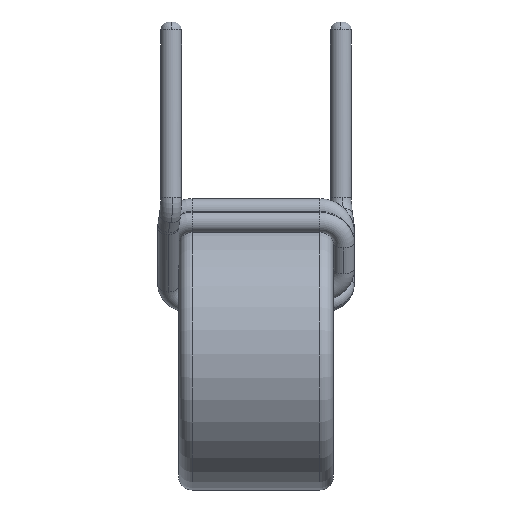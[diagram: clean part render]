
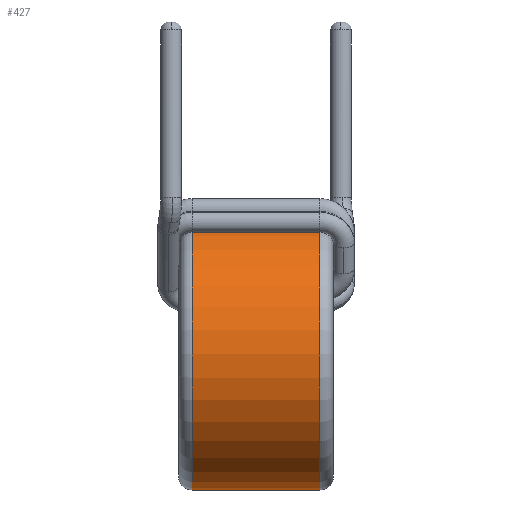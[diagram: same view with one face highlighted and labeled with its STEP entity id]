
A CAD part, left-side view. The second image highlights one B-rep face of the part: STEP entity #427.
In plain terms, the highlighted cylindrical face has radius 5.125 mm (diameter 10.25 mm), a partial arc.
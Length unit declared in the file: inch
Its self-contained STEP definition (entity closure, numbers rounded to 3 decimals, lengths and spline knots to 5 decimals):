
#46 = DIRECTION ( 'NONE',  ( 0., 0., 1. ) ) ;
#125 = AXIS2_PLACEMENT_3D ( 'NONE', #1831, #1984, #383 ) ;
#169 = VECTOR ( 'NONE', #2816, 39.37008 ) ;
#290 = CARTESIAN_POINT ( 'NONE',  ( 0., 0.11457, 0.20177 ) ) ;
#383 = DIRECTION ( 'NONE',  ( 0., 0., -1. ) ) ;
#427 = ADVANCED_FACE ( 'NONE', ( #1980 ), #1379, .T. ) ;
#483 = EDGE_LOOP ( 'NONE', ( #863, #2011, #1988, #4298 ) ) ;
#515 = AXIS2_PLACEMENT_3D ( 'NONE', #4156, #3315, #3922 ) ;
#851 = CARTESIAN_POINT ( 'NONE',  ( 0., 0.09488, -0.20177 ) ) ;
#863 = ORIENTED_EDGE ( 'NONE', *, *, #1818, .F. ) ;
#990 = EDGE_CURVE ( 'NONE', #3137, #2697, #2591, .T. ) ;
#1010 = CARTESIAN_POINT ( 'NONE',  ( 0., 0.09488, 0.20177 ) ) ;
#1136 = LINE ( 'NONE', #2978, #1502 ) ;
#1366 = CARTESIAN_POINT ( 'NONE',  ( 0., -0.09488, -0.20177 ) ) ;
#1379 = CYLINDRICAL_SURFACE ( 'NONE', #125, 0.20177 ) ;
#1502 = VECTOR ( 'NONE', #2510, 39.37008 ) ;
#1524 = LINE ( 'NONE', #290, #169 ) ;
#1811 = CARTESIAN_POINT ( 'NONE',  ( 0., -0.09488, 0. ) ) ;
#1818 = EDGE_CURVE ( 'NONE', #4462, #2697, #1524, .T. ) ;
#1831 = CARTESIAN_POINT ( 'NONE',  ( 0., 0.11457, 0. ) ) ;
#1868 = EDGE_CURVE ( 'NONE', #2340, #3137, #1136, .T. ) ;
#1980 = FACE_OUTER_BOUND ( 'NONE', #483, .T. ) ;
#1984 = DIRECTION ( 'NONE',  ( 0., -1., 0. ) ) ;
#1988 = ORIENTED_EDGE ( 'NONE', *, *, #1868, .T. ) ;
#2011 = ORIENTED_EDGE ( 'NONE', *, *, #4548, .T. ) ;
#2340 = VERTEX_POINT ( 'NONE', #851 ) ;
#2510 = DIRECTION ( 'NONE',  ( 0., -1., 0. ) ) ;
#2591 = CIRCLE ( 'NONE', #4744, 0.20177 ) ;
#2697 = VERTEX_POINT ( 'NONE', #4018 ) ;
#2816 = DIRECTION ( 'NONE',  ( 0., -1., 0. ) ) ;
#2978 = CARTESIAN_POINT ( 'NONE',  ( 0., 0.11457, -0.20177 ) ) ;
#3137 = VERTEX_POINT ( 'NONE', #1366 ) ;
#3189 = DIRECTION ( 'NONE',  ( 0., 1., 0. ) ) ;
#3315 = DIRECTION ( 'NONE',  ( 0., -1., 0. ) ) ;
#3442 = CIRCLE ( 'NONE', #515, 0.20177 ) ;
#3922 = DIRECTION ( 'NONE',  ( 0., 0., 1. ) ) ;
#4018 = CARTESIAN_POINT ( 'NONE',  ( 0., -0.09488, 0.20177 ) ) ;
#4156 = CARTESIAN_POINT ( 'NONE',  ( 0., 0.09488, 0. ) ) ;
#4298 = ORIENTED_EDGE ( 'NONE', *, *, #990, .T. ) ;
#4462 = VERTEX_POINT ( 'NONE', #1010 ) ;
#4548 = EDGE_CURVE ( 'NONE', #4462, #2340, #3442, .T. ) ;
#4744 = AXIS2_PLACEMENT_3D ( 'NONE', #1811, #3189, #46 ) ;
